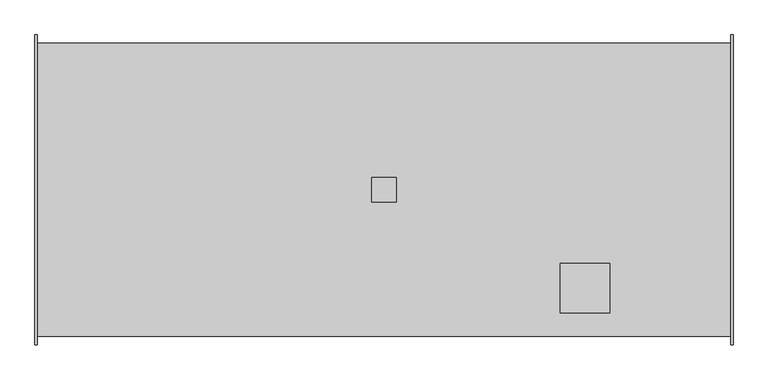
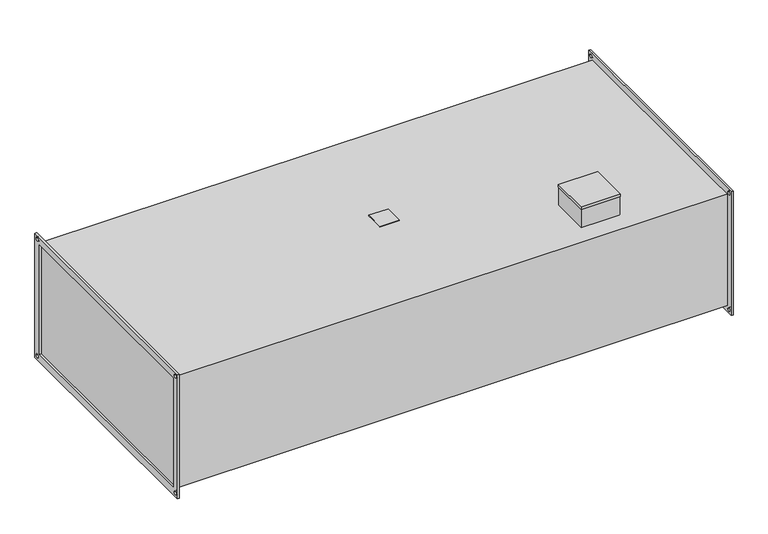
"""IFC4 building model written with IfcOpenShell, lengths in millimetres: damper geometry, KORF_Секция бактерицидной обработки воздуха_SBOW : SBOW 60-30/127."""

from ifc_helpers import new_model, si_unit, point, frame, frame_2d, origin, place, context, project, spatial, polyline, circle_curve, trimmed, segment, composite_curve, outline, extrude, faceted_brep, source, transform, mapped, element, save


def damper_73c1a2b8(model_context):
    return source(origin(), model_context, "Body", "SolidModel", [
        extrude(outline(polyline([(695.0, -25.0), (695.0, 25.0), (745.0, 25.0), (745.0, -25.0), (695.0, -25.0)])), frame((0.0, 0.0, 153.0), z_axis=(0.0, 0.0, 1.0), x_axis=(1.0, 0.0, 0.0)), (0.0, 0.0, 1.0), 2.0),
        faceted_brep([(1186.0, -152.0, 210.0), (1084.0, -152.0, 210.0), (1084.0, -254.0, 210.0), (1186.0, -254.0, 210.0), (1186.0, -152.0, 203.0), (1186.0, -254.0, 203.0), (1084.0, -254.0, 203.0), (1084.0, -152.0, 203.0), (1185.0, -153.0, 203.0), (1085.0, -153.0, 203.0), (1085.0, -253.0, 203.0), (1185.0, -253.0, 203.0), (1185.0, -153.0, 153.0), (1185.0, -253.0, 153.0), (1085.0, -253.0, 153.0), (1085.0, -153.0, 153.0)], [[[0, 1, 2, 3]], [[4, 5, 6, 7], [8, 9, 10, 11]], [[1, 0, 4, 7]], [[2, 1, 7, 6]], [[3, 2, 6, 5]], [[0, 3, 5, 4]], [[12, 13, 14, 15]], [[12, 15, 9, 8]], [[15, 14, 10, 9]], [[14, 13, 11, 10]], [[13, 12, 8, 11]]]),
        extrude(outline(polyline([(-320.0, 170.0), (320.0, 170.0), (320.0, -170.0), (-320.0, -170.0), (-320.0, 170.0)]), holes=[polyline([(-300.0, 150.0), (-300.0, -150.0), (300.0, -150.0), (300.0, 150.0), (-300.0, 150.0)]), composite_curve([segment(trimmed(circle_curve(frame_2d((310.0, 160.0)), 4.5), [point((305.5, 160.0))], [point((314.5, 160.0))], True, "CARTESIAN"), True, "CONTINUOUS"), segment(trimmed(circle_curve(frame_2d((310.0, 160.0)), 4.5), [point((314.5, 160.0))], [point((305.5, 160.0))], True, "CARTESIAN"), True, "CONTINUOUS")], self_intersect=False), composite_curve([segment(trimmed(circle_curve(frame_2d((-310.0, 160.0)), 4.5), [point((-314.5, 160.0))], [point((-305.5, 160.0))], True, "CARTESIAN"), True, "CONTINUOUS"), segment(trimmed(circle_curve(frame_2d((-310.0, 160.0)), 4.5), [point((-305.5, 160.0))], [point((-314.5, 160.0))], True, "CARTESIAN"), True, "CONTINUOUS")], self_intersect=False), composite_curve([segment(trimmed(circle_curve(frame_2d((-310.0, -160.0)), 4.5), [point((-314.5, -160.0))], [point((-305.5, -160.0))], True, "CARTESIAN"), True, "CONTINUOUS"), segment(trimmed(circle_curve(frame_2d((-310.0, -160.0)), 4.5), [point((-305.5, -160.0))], [point((-314.5, -160.0))], True, "CARTESIAN"), True, "CONTINUOUS")], self_intersect=False), composite_curve([segment(trimmed(circle_curve(frame_2d((310.0, -160.0)), 4.5), [point((305.5, -160.0))], [point((314.5, -160.0))], True, "CARTESIAN"), True, "CONTINUOUS"), segment(trimmed(circle_curve(frame_2d((310.0, -160.0)), 4.5), [point((314.5, -160.0))], [point((305.5, -160.0))], True, "CARTESIAN"), True, "CONTINUOUS")], self_intersect=False)]), frame((1435.0, 0.0, 0.0), z_axis=(1.0, 0.0, 0.0), x_axis=(0.0, 1.0, 0.0)), (0.0, 0.0, 1.0), 5.0),
        extrude(outline(polyline([(-320.0, 170.0), (320.0, 170.0), (320.0, -170.0), (-320.0, -170.0), (-320.0, 170.0)]), holes=[polyline([(-300.0, 150.0), (-300.0, -150.0), (300.0, -150.0), (300.0, 150.0), (-300.0, 150.0)]), composite_curve([segment(trimmed(circle_curve(frame_2d((310.0, 160.0)), 4.5), [point((305.5, 160.0))], [point((314.5, 160.0))], True, "CARTESIAN"), True, "CONTINUOUS"), segment(trimmed(circle_curve(frame_2d((310.0, 160.0)), 4.5), [point((314.5, 160.0))], [point((305.5, 160.0))], True, "CARTESIAN"), True, "CONTINUOUS")], self_intersect=False), composite_curve([segment(trimmed(circle_curve(frame_2d((-310.0, 160.0)), 4.5), [point((-314.5, 160.0))], [point((-305.5, 160.0))], True, "CARTESIAN"), True, "CONTINUOUS"), segment(trimmed(circle_curve(frame_2d((-310.0, 160.0)), 4.5), [point((-305.5, 160.0))], [point((-314.5, 160.0))], True, "CARTESIAN"), True, "CONTINUOUS")], self_intersect=False), composite_curve([segment(trimmed(circle_curve(frame_2d((-310.0, -160.0)), 4.5), [point((-314.5, -160.0))], [point((-305.5, -160.0))], True, "CARTESIAN"), True, "CONTINUOUS"), segment(trimmed(circle_curve(frame_2d((-310.0, -160.0)), 4.5), [point((-305.5, -160.0))], [point((-314.5, -160.0))], True, "CARTESIAN"), True, "CONTINUOUS")], self_intersect=False), composite_curve([segment(trimmed(circle_curve(frame_2d((310.0, -160.0)), 4.5), [point((305.5, -160.0))], [point((314.5, -160.0))], True, "CARTESIAN"), True, "CONTINUOUS"), segment(trimmed(circle_curve(frame_2d((310.0, -160.0)), 4.5), [point((314.5, -160.0))], [point((305.5, -160.0))], True, "CARTESIAN"), True, "CONTINUOUS")], self_intersect=False)]), frame((0.0, 0.0, 0.0), z_axis=(1.0, 0.0, 0.0), x_axis=(0.0, 1.0, 0.0)), (0.0, 0.0, 1.0), 5.0),
        extrude(outline(polyline([(1435.0, 303.0), (1435.0, -303.0), (5.0, -303.0), (5.0, 303.0), (1435.0, 303.0)])), frame((0.0, 0.0, -153.0), z_axis=(0.0, 0.0, 1.0), x_axis=(1.0, 0.0, 0.0)), (0.0, 0.0, 1.0), 306.0),
    ])


if __name__ == "__main__":
    model = new_model("IFC4")
    model_context = context("Model", 3, world=origin())
    ifc_project = project(units=[si_unit("LENGTHUNIT", "METRE", prefix="MILLI")], contexts=[model_context])
    site = spatial("IfcSite", under=ifc_project)
    building = spatial("IfcBuilding", under=site)
    placement = place(None, origin())
    damper_shape = damper_73c1a2b8(model_context)
    element("IfcDamper", 1, ObjectType="KORF_Секция бактерицидной обработки воздуха_SBOW : SBOW 60-30/127", at=placement, inside=building, context=model_context, shape_type="MappedRepresentation", body=[
        mapped(damper_shape, transform((0.0, 0.0, 0.0), x_axis=(1.0, 0.0, 0.0), y_axis=(0.0, 1.0, 0.0), z_axis=(0.0, 0.0, 1.0))),
    ])
    save(model, "model.ifc")
